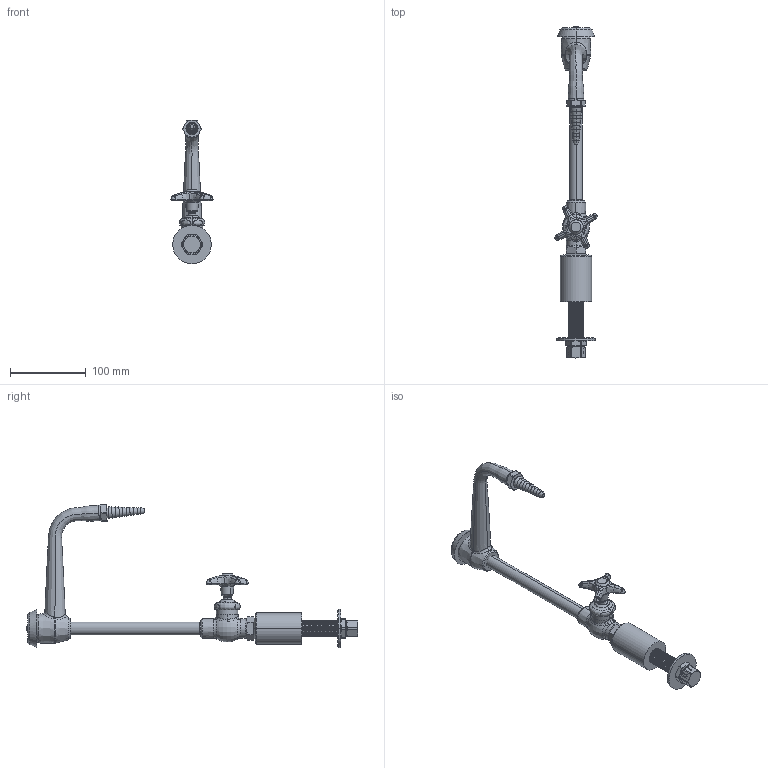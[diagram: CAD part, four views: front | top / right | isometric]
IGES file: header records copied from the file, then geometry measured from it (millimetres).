
Start section:  PTC IGES file: LWS6-C11-G.igs
Global section: file name: LWS6-C11-G.igs; native system: Creo Parametric by PTC Inc.; preprocessor: 2017260; author: usch_engrender; organization: Unknown; date: 20190912.121852; units: inch
Bounding box: 55.72 x 438.33 x 189.43 mm (x, y, z)
Surface area: 81540.4 mm2 (no closed solid volume)
Topology: 0 solids, 35 shells, 467 faces, 1186 edges, 752 vertices
Faces by surface type: revolution 269, bspline 198
